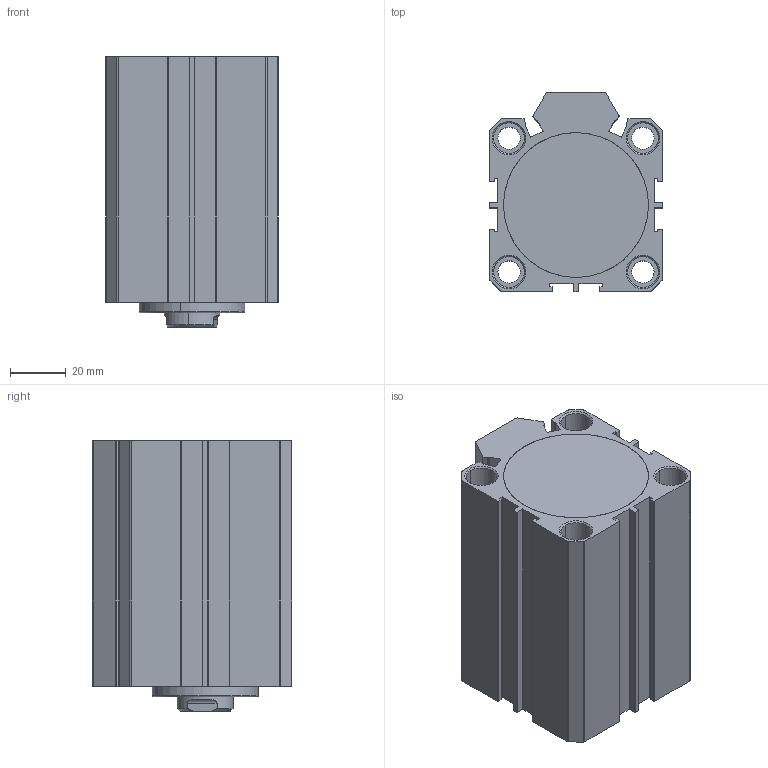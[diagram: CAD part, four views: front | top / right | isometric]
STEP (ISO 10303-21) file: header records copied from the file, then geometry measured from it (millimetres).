
FILE_DESCRIPTION (( 'STEP AP203' ), '1' );
FILE_NAME ('SDA-S-50X50CYLINDER.STEP', '2015-08-03T13:07:18', ( 'user' ), ( '' ), 'SwSTEP 2.0', 'SolidWorks 2013', '' );
FILE_SCHEMA (( 'CONFIG_CONTROL_DESIGN' ));
Length unit declared in the file: millimetre
Products named in the file (5): SDA-S 50X50 BORU; SDA-S 50X50 M尳 VE TOP; SDA-S 50 ARKA KAPAK; SDA-S 50 烰 KAPAK; SDA-S-50X50CYLINDER
Assembly tree (4 placements, depth 2):
  SDA-S-50X50CYLINDER
    SDA-S 50X50 BORU
    SDA-S 50X50 M尳 VE TOP
    SDA-S 50 ARKA KAPAK
    SDA-S 50 烰 KAPAK
Bounding box: 62 x 71.5 x 97 mm (x, y, z)
Volume: 235225.4 mm3; surface area: 82987.2 mm2
Topology: 4 solids, 5 shells, 253 faces, 637 edges, 416 vertices
Faces by surface type: cylinder 113, plane 104, cone 34, torus 2
Entity records: 8322 total; most frequent: CARTESIAN_POINT 1480, DIRECTION 1401, ORIENTED_EDGE 1274, EDGE_CURVE 637, AXIS2_PLACEMENT_3D 533, VERTEX_POINT 416, VECTOR 335, LINE 335
